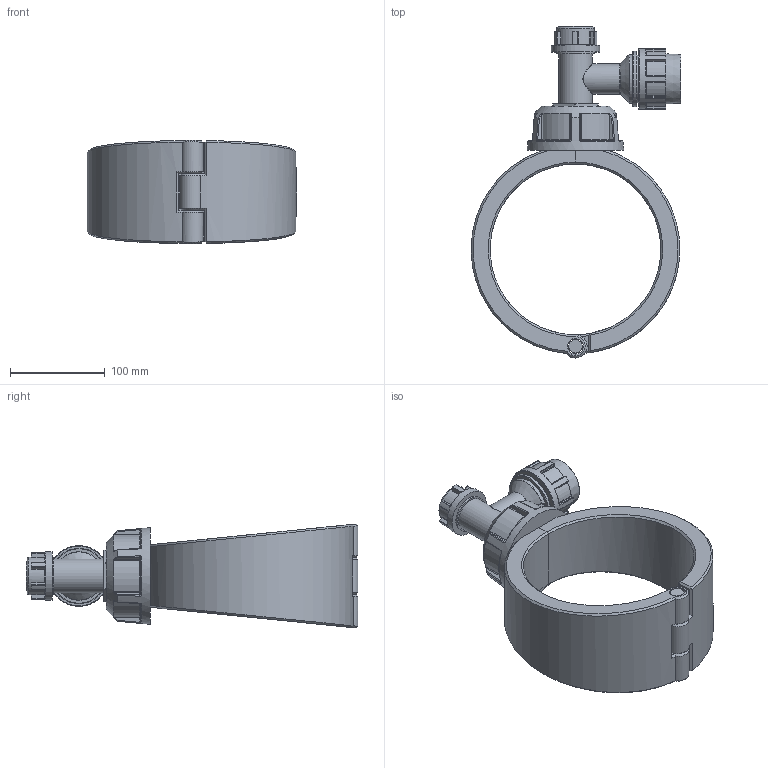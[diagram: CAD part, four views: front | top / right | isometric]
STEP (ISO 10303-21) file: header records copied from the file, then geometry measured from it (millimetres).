
FILE_DESCRIPTION(/* description */ ('Plassadle Tapper 180x32'),/* implementation_level */ '2;1');
FILE_NAME(/* name */ 'C:\Users\comp2\Dropbox\99-16-3568-Processing\Mechanical Fittings\16310\stp\1631061770320A.stp',/* time_stamp */ '2022-02-03T11:59:36+00:00',/* author */ ('comp2'),/* organization */ (''),/* preprocessor_version */ 'ST-DEVELOPER v17.2',/* originating_system */ 'Autodesk Inventor 2019',/* authorisation */ '');
FILE_SCHEMA (('AUTOMOTIVE_DESIGN { 1 0 10303 214 3 1 1 }'));
Length unit declared in the file: millimetre
Products named in the file (1): 1631061770320A
Bounding box: 220.89 x 349.99 x 109.6 mm (x, y, z)
Volume: 1629528 mm3; surface area: 210932.8 mm2
Topology: 4 solids, 4 shells, 519 faces, 1253 edges, 754 vertices
Faces by surface type: cylinder 184, plane 109, bspline 87, torus 83, sphere 40, cone 16
Full cylindrical faces by diameter (mm): 14.4 x1, 16.4 x3, 30.6 x1, 32 x2, 35.7 x1, 39.7 x2, 51 x1, 51.2 x2, 58.414 x1, 64 x1
Entity records: 18812 total; most frequent: CARTESIAN_POINT 7059, ORIENTED_EDGE 2508, DIRECTION 2426, EDGE_CURVE 1254, AXIS2_PLACEMENT_3D 1028, VERTEX_POINT 755, CIRCLE 563, EDGE_LOOP 537
